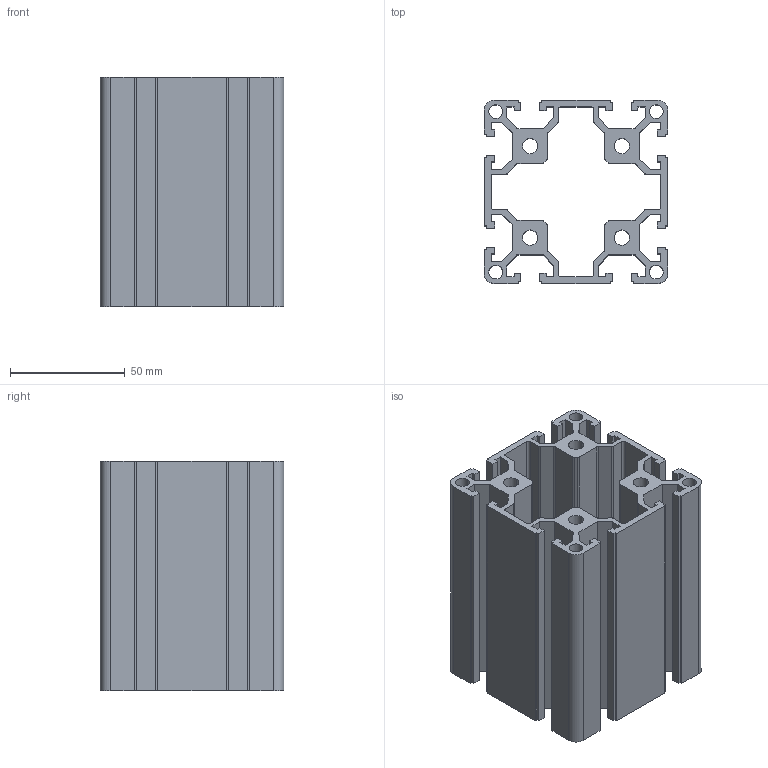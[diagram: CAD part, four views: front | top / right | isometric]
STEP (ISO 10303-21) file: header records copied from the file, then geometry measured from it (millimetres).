
FILE_DESCRIPTION (( 'STEP AP203' ), '1' );
FILE_NAME ('LIMA-8080-8.STEP', '2018-03-15T12:35:41', ( '' ), ( '' ), 'SwSTEP 2.0', 'SolidWorks 2013', '' );
FILE_SCHEMA (( 'CONFIG_CONTROL_DESIGN' ));
Length unit declared in the file: millimetre
Products named in the file (1): LIMA-8080-8
Bounding box: 80 x 80 x 100 mm (x, y, z)
Volume: 186531.4 mm3; surface area: 117602.2 mm2
Topology: 1 solids, 1 shells, 234 faces, 696 edges, 464 vertices
Faces by surface type: plane 182, cylinder 52
Entity records: 7897 total; most frequent: CARTESIAN_POINT 1395, ORIENTED_EDGE 1392, DIRECTION 1270, EDGE_CURVE 696, LINE 592, VECTOR 592, VERTEX_POINT 464, AXIS2_PLACEMENT_3D 339
